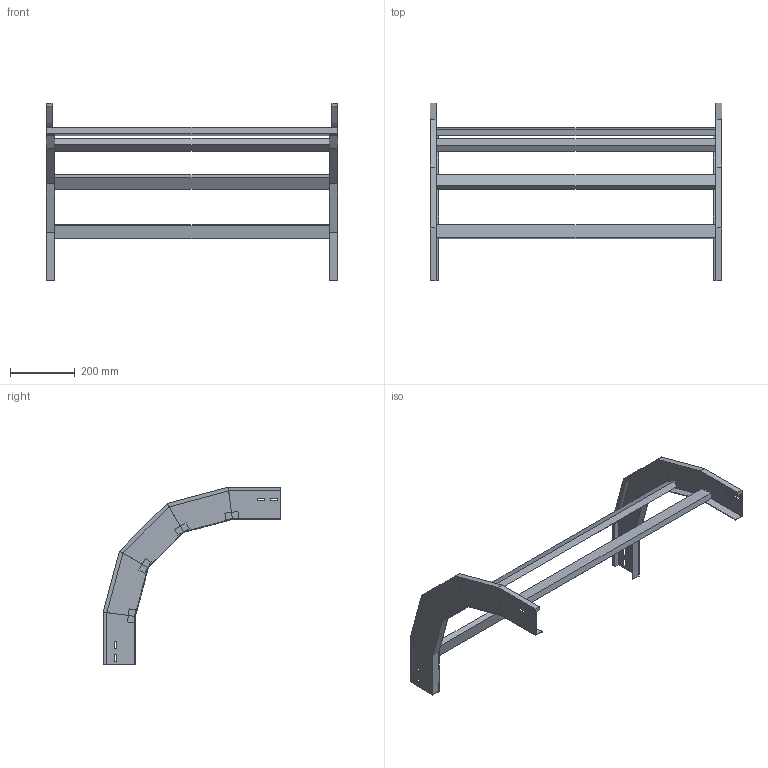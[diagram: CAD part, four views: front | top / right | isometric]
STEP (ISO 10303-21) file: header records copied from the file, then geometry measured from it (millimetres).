
FILE_DESCRIPTION (( 'STEP AP214' ), '1' );
FILE_NAME ('A2_33B3D900.step', '2025-02-21T15:02:13', ( '' ), ( '' ), 'SwSTEP 2.0', 'SolidWorks 2023', '' );
FILE_SCHEMA (( 'AUTOMOTIVE_DESIGN' ));
Length unit declared in the file: millimetre
Products named in the file (3): LONGH.DISCESA_90°_H100_R300; A2_33B3D900; TRAVERSINO_900
Assembly tree (6 placements, depth 2):
  A2_33B3D900
    LONGH.DISCESA_90°_H100_R300  x2
    TRAVERSINO_900  x4
Bounding box: 900 x 549.44 x 549.44 mm (x, y, z)
Volume: 3666660.1 mm3; surface area: 920339.4 mm2
Topology: 6 solids, 6 shells, 140 faces, 320 edges, 192 vertices
Faces by surface type: plane 140
Entity records: 1872 total; most frequent: CARTESIAN_POINT 309, ORIENTED_EDGE 296, DIRECTION 294, EDGE_CURVE 148, LINE 148, VECTOR 148, VERTEX_POINT 88, AXIS2_PLACEMENT_3D 73
